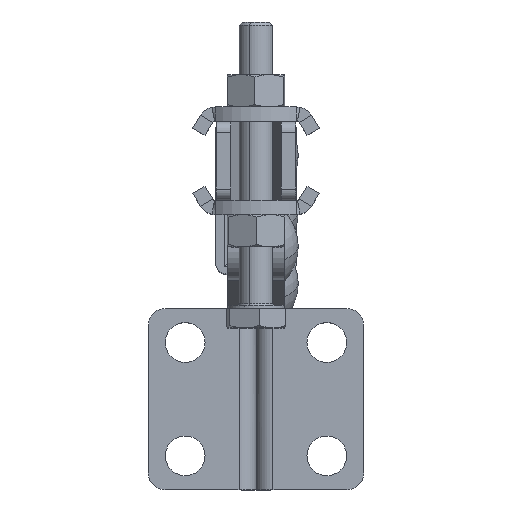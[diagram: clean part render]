
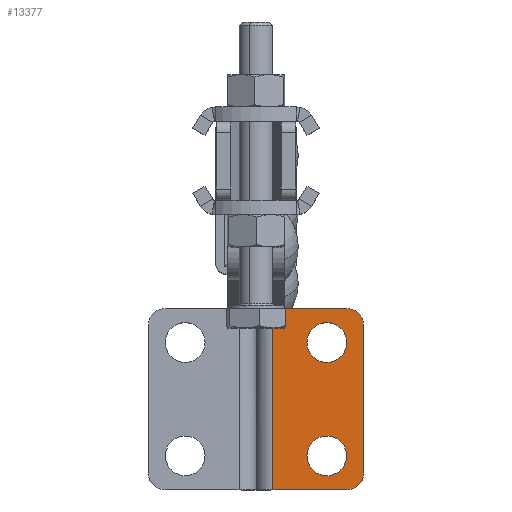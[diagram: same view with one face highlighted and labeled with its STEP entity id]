
A CAD part, top view. The second image highlights one B-rep face of the part: STEP entity #13377.
In plain terms, the highlighted planar face has unit normal (0, 0, 1).
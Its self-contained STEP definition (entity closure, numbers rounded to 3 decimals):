
#1221 = DIRECTION ( 'NONE',  ( -1., 0., 0. ) ) ;
#1783 = ORIENTED_EDGE ( 'NONE', *, *, #47376, .T. ) ;
#2441 = EDGE_LOOP ( 'NONE', ( #38316, #1783, #34247, #15439, #7420, #16794 ) ) ;
#2505 = EDGE_LOOP ( 'NONE', ( #18380, #27217 ) ) ;
#4641 = CARTESIAN_POINT ( 'NONE',  ( 10., -27., 46. ) ) ;
#6724 = CARTESIAN_POINT ( 'NONE',  ( 13.5, -27., 46. ) ) ;
#6823 = CIRCLE ( 'NONE', #38617, 3.5 ) ;
#7420 = ORIENTED_EDGE ( 'NONE', *, *, #41118, .T. ) ;
#7896 = CIRCLE ( 'NONE', #18520, 3.5 ) ;
#8080 = CARTESIAN_POINT ( 'NONE',  ( 16.5, -30., 46. ) ) ;
#8561 = ORIENTED_EDGE ( 'NONE', *, *, #35407, .T. ) ;
#8588 = FACE_BOUND ( 'NONE', #38530, .T. ) ;
#8689 = DIRECTION ( 'NONE',  ( -1., 0., 0. ) ) ;
#9164 = CARTESIAN_POINT ( 'NONE',  ( 0., -33., 46. ) ) ;
#9711 = CARTESIAN_POINT ( 'NONE',  ( 10., -7., 46. ) ) ;
#9820 = DIRECTION ( 'NONE',  ( 0., 0., 1. ) ) ;
#10875 = VECTOR ( 'NONE', #1221, 1000. ) ;
#11608 = PLANE ( 'NONE',  #32836 ) ;
#11888 = DIRECTION ( 'NONE',  ( 0., 1., 0. ) ) ;
#11943 = AXIS2_PLACEMENT_3D ( 'NONE', #33819, #9820, #37831 ) ;
#12185 = DIRECTION ( 'NONE',  ( 0., 0., -1. ) ) ;
#12674 = EDGE_CURVE ( 'NONE', #20829, #51839, #36229, .T. ) ;
#13377 = ADVANCED_FACE ( 'NONE', ( #19181, #8588, #51169 ), #11608, .F. ) ;
#13742 = DIRECTION ( 'NONE',  ( -1., 0., 0. ) ) ;
#14899 = VECTOR ( 'NONE', #37425, 1000. ) ;
#15439 = ORIENTED_EDGE ( 'NONE', *, *, #22545, .T. ) ;
#15553 = CARTESIAN_POINT ( 'NONE',  ( 13.5, -1., 46. ) ) ;
#16360 = EDGE_CURVE ( 'NONE', #42554, #44830, #49492, .T. ) ;
#16665 = CARTESIAN_POINT ( 'NONE',  ( 6.5, -7., 46. ) ) ;
#16794 = ORIENTED_EDGE ( 'NONE', *, *, #19362, .F. ) ;
#17046 = CARTESIAN_POINT ( 'NONE',  ( 13.5, -30., 46. ) ) ;
#18021 = VERTEX_POINT ( 'NONE', #32975 ) ;
#18380 = ORIENTED_EDGE ( 'NONE', *, *, #30455, .T. ) ;
#18520 = AXIS2_PLACEMENT_3D ( 'NONE', #9711, #37729, #13742 ) ;
#18546 = EDGE_CURVE ( 'NONE', #50813, #46072, #7896, .T. ) ;
#19181 = FACE_BOUND ( 'NONE', #2505, .T. ) ;
#19352 = VERTEX_POINT ( 'NONE', #35882 ) ;
#19362 = EDGE_CURVE ( 'NONE', #42554, #19352, #46047, .T. ) ;
#19446 = CARTESIAN_POINT ( 'NONE',  ( 0., 0., 46. ) ) ;
#19487 = AXIS2_PLACEMENT_3D ( 'NONE', #20725, #48796, #24755 ) ;
#19621 = DIRECTION ( 'NONE',  ( 0., 0., -1. ) ) ;
#20030 = CARTESIAN_POINT ( 'NONE',  ( 0.5, -33., 46. ) ) ;
#20104 = CARTESIAN_POINT ( 'NONE',  ( 13.5, -33., 46. ) ) ;
#20725 = CARTESIAN_POINT ( 'NONE',  ( 10., -27., 46. ) ) ;
#20829 = VERTEX_POINT ( 'NONE', #8080 ) ;
#21033 = DIRECTION ( 'NONE',  ( 1., 0., 0. ) ) ;
#21073 = DIRECTION ( 'NONE',  ( -1., 0., 0. ) ) ;
#22545 = EDGE_CURVE ( 'NONE', #51839, #22699, #43418, .T. ) ;
#22699 = VERTEX_POINT ( 'NONE', #15553 ) ;
#23437 = VECTOR ( 'NONE', #11888, 1000. ) ;
#24437 = CARTESIAN_POINT ( 'NONE',  ( 16.5, -4., 46. ) ) ;
#24755 = DIRECTION ( 'NONE',  ( -1., 0., 0. ) ) ;
#27217 = ORIENTED_EDGE ( 'NONE', *, *, #47327, .T. ) ;
#28004 = CARTESIAN_POINT ( 'NONE',  ( 0.5, 1., 46. ) ) ;
#29256 = CARTESIAN_POINT ( 'NONE',  ( 0., -1., 46. ) ) ;
#30455 = EDGE_CURVE ( 'NONE', #18021, #40217, #44232, .T. ) ;
#30903 = LINE ( 'NONE', #29256, #10875 ) ;
#32673 = DIRECTION ( 'NONE',  ( 0., 0., -1. ) ) ;
#32836 = AXIS2_PLACEMENT_3D ( 'NONE', #19446, #19621, #47686 ) ;
#32975 = CARTESIAN_POINT ( 'NONE',  ( 6.5, -27., 46. ) ) ;
#33390 = CARTESIAN_POINT ( 'NONE',  ( 16.5, 0., 46. ) ) ;
#33815 = CIRCLE ( 'NONE', #41023, 3. ) ;
#33819 = CARTESIAN_POINT ( 'NONE',  ( 13.5, -4., 46. ) ) ;
#34247 = ORIENTED_EDGE ( 'NONE', *, *, #12674, .T. ) ;
#34795 = AXIS2_PLACEMENT_3D ( 'NONE', #4641, #32673, #8689 ) ;
#35407 = EDGE_CURVE ( 'NONE', #46072, #50813, #6823, .T. ) ;
#35882 = CARTESIAN_POINT ( 'NONE',  ( 0.5, -1., 46. ) ) ;
#35886 = ORIENTED_EDGE ( 'NONE', *, *, #18546, .T. ) ;
#36199 = CARTESIAN_POINT ( 'NONE',  ( 10., -7., 46. ) ) ;
#36229 = LINE ( 'NONE', #33390, #14899 ) ;
#37425 = DIRECTION ( 'NONE',  ( 0., 1., 0. ) ) ;
#37729 = DIRECTION ( 'NONE',  ( 0., 0., -1. ) ) ;
#37831 = DIRECTION ( 'NONE',  ( -1., 0., 0. ) ) ;
#38316 = ORIENTED_EDGE ( 'NONE', *, *, #16360, .T. ) ;
#38530 = EDGE_LOOP ( 'NONE', ( #8561, #35886 ) ) ;
#38617 = AXIS2_PLACEMENT_3D ( 'NONE', #36199, #12185, #40230 ) ;
#40217 = VERTEX_POINT ( 'NONE', #6724 ) ;
#40230 = DIRECTION ( 'NONE',  ( -1., 0., 0. ) ) ;
#41023 = AXIS2_PLACEMENT_3D ( 'NONE', #17046, #45095, #21073 ) ;
#41118 = EDGE_CURVE ( 'NONE', #22699, #19352, #30903, .T. ) ;
#42554 = VERTEX_POINT ( 'NONE', #20030 ) ;
#43418 = CIRCLE ( 'NONE', #11943, 3. ) ;
#44232 = CIRCLE ( 'NONE', #34795, 3.5 ) ;
#44830 = VERTEX_POINT ( 'NONE', #20104 ) ;
#45095 = DIRECTION ( 'NONE',  ( 0., 0., 1. ) ) ;
#45711 = CIRCLE ( 'NONE', #19487, 3.5 ) ;
#46047 = LINE ( 'NONE', #28004, #23437 ) ;
#46072 = VERTEX_POINT ( 'NONE', #16665 ) ;
#46956 = VECTOR ( 'NONE', #21033, 1000. ) ;
#47327 = EDGE_CURVE ( 'NONE', #40217, #18021, #45711, .T. ) ;
#47376 = EDGE_CURVE ( 'NONE', #44830, #20829, #33815, .T. ) ;
#47686 = DIRECTION ( 'NONE',  ( -1., 0., 0. ) ) ;
#48416 = CARTESIAN_POINT ( 'NONE',  ( 13.5, -7., 46. ) ) ;
#48796 = DIRECTION ( 'NONE',  ( 0., 0., -1. ) ) ;
#49492 = LINE ( 'NONE', #9164, #46956 ) ;
#50813 = VERTEX_POINT ( 'NONE', #48416 ) ;
#51169 = FACE_OUTER_BOUND ( 'NONE', #2441, .T. ) ;
#51839 = VERTEX_POINT ( 'NONE', #24437 ) ;
